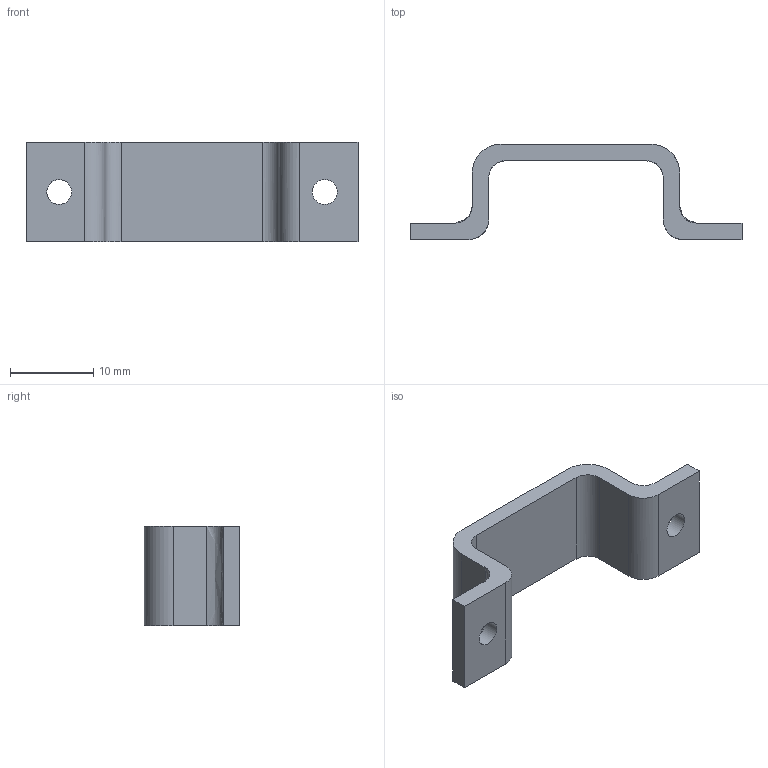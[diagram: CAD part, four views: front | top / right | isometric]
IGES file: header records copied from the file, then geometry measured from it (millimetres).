
Global section: file name: clip-hdmi v1; native system: unknown; preprocessor: unknown; author: unknown; organization: unknown; date: 20231018.113353; units: millimetre
Bounding box: 40 x 11.5 x 12 mm (x, y, z)
Volume: 1333.6 mm3; surface area: 1597.5 mm2
Topology: 1 solids, 1 shells, 24 faces, 70 edges, 46 vertices
Faces by surface type: bspline 24
